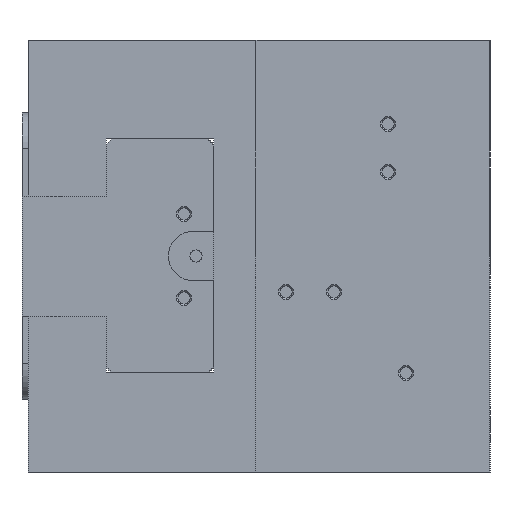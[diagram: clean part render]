
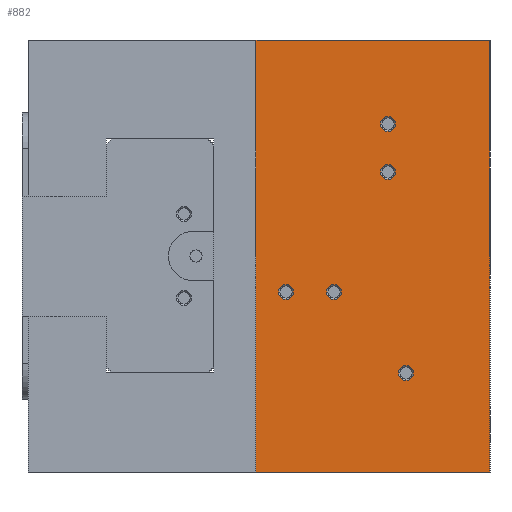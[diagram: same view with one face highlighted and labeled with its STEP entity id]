
A CAD part, left-side view. The second image highlights one B-rep face of the part: STEP entity #882.
In plain terms, the highlighted planar face has unit normal (-1, 0, 0).
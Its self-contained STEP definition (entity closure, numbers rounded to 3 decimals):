
#882 = ADVANCED_FACE( '', ( #1930, #1931, #1932, #1933, #1934, #1935 ), #1936, .F. );
#1930 = FACE_BOUND( '', #3022, .T. );
#1931 = FACE_BOUND( '', #3023, .T. );
#1932 = FACE_OUTER_BOUND( '', #3024, .T. );
#1933 = FACE_BOUND( '', #3025, .T. );
#1934 = FACE_BOUND( '', #3026, .T. );
#1935 = FACE_BOUND( '', #3027, .T. );
#1936 = PLANE( '', #3028 );
#3022 = EDGE_LOOP( '', ( #5043 ) );
#3023 = EDGE_LOOP( '', ( #5044 ) );
#3024 = EDGE_LOOP( '', ( #5045, #5046, #5047, #5048 ) );
#3025 = EDGE_LOOP( '', ( #5049 ) );
#3026 = EDGE_LOOP( '', ( #5050 ) );
#3027 = EDGE_LOOP( '', ( #5051 ) );
#3028 = AXIS2_PLACEMENT_3D( '', #5052, #5053, #5054 );
#5043 = ORIENTED_EDGE( '', *, *, #5486, .T. );
#5044 = ORIENTED_EDGE( '', *, *, #5428, .T. );
#5045 = ORIENTED_EDGE( '', *, *, #6163, .T. );
#5046 = ORIENTED_EDGE( '', *, *, #5435, .F. );
#5047 = ORIENTED_EDGE( '', *, *, #5797, .F. );
#5048 = ORIENTED_EDGE( '', *, *, #6128, .T. );
#5049 = ORIENTED_EDGE( '', *, *, #5889, .T. );
#5050 = ORIENTED_EDGE( '', *, *, #5985, .T. );
#5051 = ORIENTED_EDGE( '', *, *, #6141, .T. );
#5052 = CARTESIAN_POINT( '', ( -62.5, 39., 36. ) );
#5053 = DIRECTION( '', ( 1., 0., 0. ) );
#5054 = DIRECTION( '', ( 0., 0., -1. ) );
#5428 = EDGE_CURVE( '', #6261, #6261, #6262, .T. );
#5435 = EDGE_CURVE( '', #6273, #6268, #6275, .T. );
#5486 = EDGE_CURVE( '', #6368, #6368, #6369, .T. );
#5797 = EDGE_CURVE( '', #6870, #6273, #6872, .T. );
#5889 = EDGE_CURVE( '', #7019, #7019, #7020, .T. );
#5985 = EDGE_CURVE( '', #7154, #7154, #7155, .T. );
#6128 = EDGE_CURVE( '', #6870, #7341, #7343, .T. );
#6141 = EDGE_CURVE( '', #7359, #7359, #7360, .T. );
#6163 = EDGE_CURVE( '', #7341, #6268, #7384, .T. );
#6261 = VERTEX_POINT( '', #7485 );
#6262 = CIRCLE( '', #7486, 1.25 );
#6268 = VERTEX_POINT( '', #7492 );
#6273 = VERTEX_POINT( '', #7499 );
#6275 = LINE( '', #7502, #7503 );
#6368 = VERTEX_POINT( '', #7630 );
#6369 = CIRCLE( '', #7631, 1.25 );
#6870 = VERTEX_POINT( '', #8377 );
#6872 = LINE( '', #8380, #8381 );
#7019 = VERTEX_POINT( '', #8623 );
#7020 = CIRCLE( '', #8624, 1.25 );
#7154 = VERTEX_POINT( '', #8856 );
#7155 = CIRCLE( '', #8857, 1.25 );
#7341 = VERTEX_POINT( '', #9097 );
#7343 = LINE( '', #9100, #9101 );
#7359 = VERTEX_POINT( '', #9120 );
#7360 = CIRCLE( '', #9121, 1.25 );
#7384 = LINE( '', #9147, #9148 );
#7485 = CARTESIAN_POINT( '', ( -62.5, 34., -7.25 ) );
#7486 = AXIS2_PLACEMENT_3D( '', #9265, #9266, #9267 );
#7492 = CARTESIAN_POINT( '', ( -62.5, 0., -36. ) );
#7499 = CARTESIAN_POINT( '', ( -62.5, 0., 36. ) );
#7502 = CARTESIAN_POINT( '', ( -62.5, 0., 36. ) );
#7503 = VECTOR( '', #9277, 1000. );
#7630 = CARTESIAN_POINT( '', ( -62.5, 17., 12.75 ) );
#7631 = AXIS2_PLACEMENT_3D( '', #9336, #9337, #9338 );
#8377 = CARTESIAN_POINT( '', ( -62.5, 39., 36. ) );
#8380 = CARTESIAN_POINT( '', ( -62.5, 39., 36. ) );
#8381 = VECTOR( '', #9762, 1000. );
#8623 = CARTESIAN_POINT( '', ( -62.5, 26., -7.25 ) );
#8624 = AXIS2_PLACEMENT_3D( '', #9892, #9893, #9894 );
#8856 = CARTESIAN_POINT( '', ( -62.5, 14., -20.75 ) );
#8857 = AXIS2_PLACEMENT_3D( '', #10007, #10008, #10009 );
#9097 = CARTESIAN_POINT( '', ( -62.5, 39., -36. ) );
#9100 = CARTESIAN_POINT( '', ( -62.5, 39., 36. ) );
#9101 = VECTOR( '', #10146, 1000. );
#9120 = CARTESIAN_POINT( '', ( -62.5, 17., 20.75 ) );
#9121 = AXIS2_PLACEMENT_3D( '', #10159, #10160, #10161 );
#9147 = CARTESIAN_POINT( '', ( -62.5, 39., -36. ) );
#9148 = VECTOR( '', #10170, 1000. );
#9265 = CARTESIAN_POINT( '', ( -62.5, 34., -6. ) );
#9266 = DIRECTION( '', ( 1., 0., 0. ) );
#9267 = DIRECTION( '', ( 0., 0., -1. ) );
#9277 = DIRECTION( '', ( 0., 0., -1. ) );
#9336 = CARTESIAN_POINT( '', ( -62.5, 17., 14. ) );
#9337 = DIRECTION( '', ( 1., 0., 0. ) );
#9338 = DIRECTION( '', ( 0., 0., -1. ) );
#9762 = DIRECTION( '', ( 0., -1., 0. ) );
#9892 = CARTESIAN_POINT( '', ( -62.5, 26., -6. ) );
#9893 = DIRECTION( '', ( 1., 0., 0. ) );
#9894 = DIRECTION( '', ( 0., 0., -1. ) );
#10007 = CARTESIAN_POINT( '', ( -62.5, 14., -19.5 ) );
#10008 = DIRECTION( '', ( 1., 0., 0. ) );
#10009 = DIRECTION( '', ( 0., 0., -1. ) );
#10146 = DIRECTION( '', ( 0., 0., -1. ) );
#10159 = CARTESIAN_POINT( '', ( -62.5, 17., 22. ) );
#10160 = DIRECTION( '', ( 1., 0., 0. ) );
#10161 = DIRECTION( '', ( 0., 0., -1. ) );
#10170 = DIRECTION( '', ( 0., -1., 0. ) );
